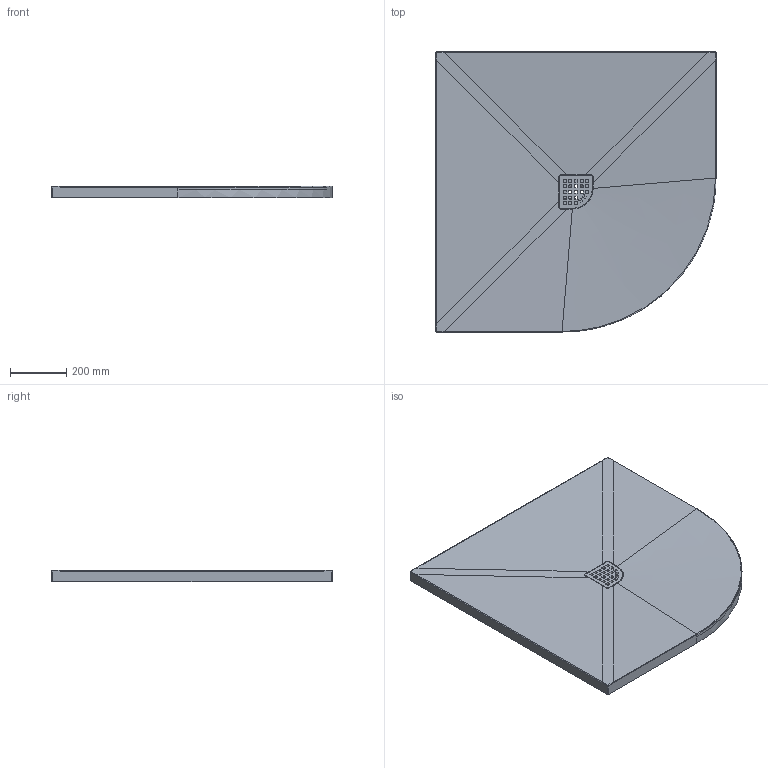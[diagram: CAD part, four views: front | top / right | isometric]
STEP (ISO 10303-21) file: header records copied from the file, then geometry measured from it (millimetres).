
FILE_DESCRIPTION (( 'STEP AP214' ), '1' );
FILE_NAME ('TRENT 100x100 R550.STEP', '2024-05-13T12:04:48', ( '' ), ( '' ), 'SwSTEP 2.0', 'SolidWorks 2021', '' );
FILE_SCHEMA (( 'AUTOMOTIVE_DESIGN' ));
Length unit declared in the file: millimetre
Products named in the file (1): TRENT 100x100 R550
Bounding box: 1000 x 1000 x 40.16 mm (x, y, z)
Volume: 13475326 mm3; surface area: 2332068.2 mm2
Topology: 3 solids, 3 shells, 755 faces, 1799 edges, 1043 vertices
Faces by surface type: cylinder 332, bspline 260, plane 163
Full cylindrical faces by diameter (mm): 66 x1
Entity records: 35552 total; most frequent: CARTESIAN_POINT 20360, ORIENTED_EDGE 3586, DIRECTION 2248, EDGE_CURVE 1793, VERTEX_POINT 1043, EDGE_LOOP 816, LINE 800, VECTOR 800
